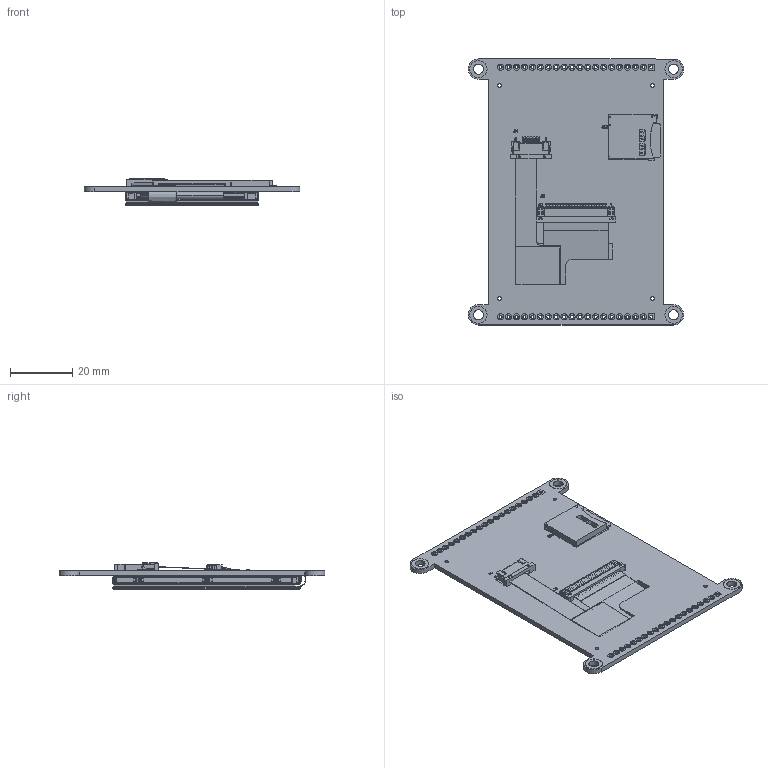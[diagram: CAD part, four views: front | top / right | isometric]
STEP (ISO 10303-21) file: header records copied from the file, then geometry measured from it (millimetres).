
FILE_DESCRIPTION (( 'STEP AP203' ), '1' );
FILE_NAME ('NHD-2.4C-CSXP-BREAKOUT.STEP', '2025-07-25T18:44:19', ( '' ), ( '' ), 'SwSTEP 2.0', 'SolidWorks 2019', '' );
FILE_SCHEMA (( 'CONFIG_CONTROL_DESIGN' ));
Products named in the file (1): NHD-2.4C-CSXP-BREAKOUT
Bounding box: 69.03 x 85.2 x 8.46 mm (x, y, z)
Volume: 17457.1 mm3; surface area: 48488.8 mm2
Topology: 15 solids, 25 shells, 6020 faces, 18210 edges, 11896 vertices
Faces by surface type: plane 3773, cylinder 2092, bspline 142, cone 8, torus 5
Entity records: 209838 total; most frequent: CARTESIAN_POINT 44457, ORIENTED_EDGE 36416, DIRECTION 32955, EDGE_CURVE 18208, LINE 12731, VECTOR 12731, VERTEX_POINT 11896, AXIS2_PLACEMENT_3D 10112
